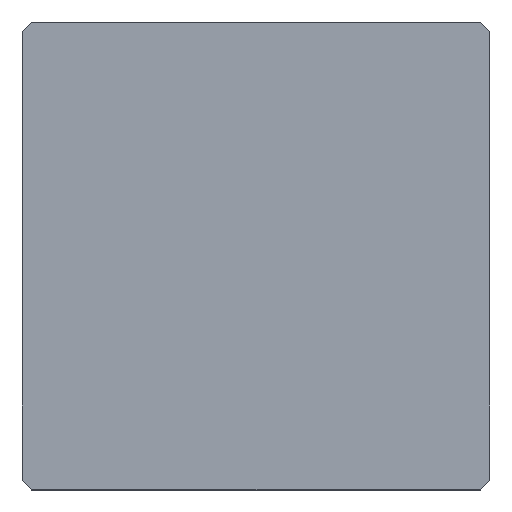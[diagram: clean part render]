
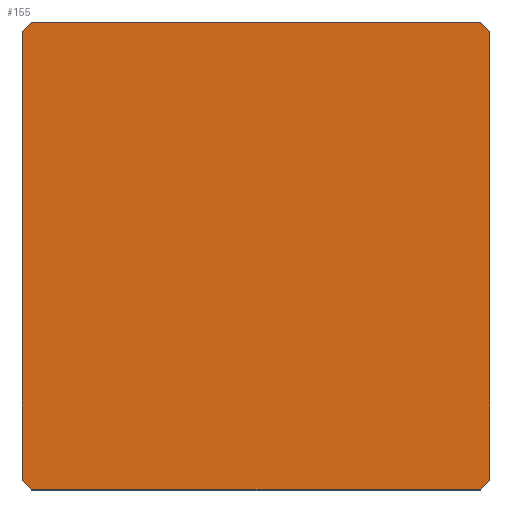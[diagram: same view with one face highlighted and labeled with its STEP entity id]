
A CAD part, top view. The second image highlights one B-rep face of the part: STEP entity #155.
In plain terms, the highlighted planar face has unit normal (0, 0, 1).
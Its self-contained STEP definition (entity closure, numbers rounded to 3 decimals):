
#39 = EDGE_CURVE('',#40,#42,#44,.T.);
#40 = VERTEX_POINT('',#41);
#41 = CARTESIAN_POINT('',(-10.,-9.6,12.75));
#42 = VERTEX_POINT('',#43);
#43 = CARTESIAN_POINT('',(-10.,9.6,12.75));
#44 = SURFACE_CURVE('',#45,(#49,#61),.PCURVE_S1.);
#45 = LINE('',#46,#47);
#46 = CARTESIAN_POINT('',(-10.,-10.,12.75));
#47 = VECTOR('',#48,1.);
#48 = DIRECTION('',(-0.,1.,0.));
#49 = PCURVE('',#50,#55);
#50 = PLANE('',#51);
#51 = AXIS2_PLACEMENT_3D('',#52,#53,#54);
#52 = CARTESIAN_POINT('',(-10.,-10.,0.));
#53 = DIRECTION('',(1.,0.,-0.));
#54 = DIRECTION('',(0.,0.,1.));
#55 = DEFINITIONAL_REPRESENTATION('',(#56),#60);
#56 = LINE('',#57,#58);
#57 = CARTESIAN_POINT('',(12.75,0.));
#58 = VECTOR('',#59,1.);
#59 = DIRECTION('',(0.,-1.));
#60 = ( GEOMETRIC_REPRESENTATION_CONTEXT(2) 
PARAMETRIC_REPRESENTATION_CONTEXT() REPRESENTATION_CONTEXT('2D SPACE',''
  ) );
#61 = PCURVE('',#62,#67);
#62 = PLANE('',#63);
#63 = AXIS2_PLACEMENT_3D('',#64,#65,#66);
#64 = CARTESIAN_POINT('',(-10.,-10.,12.75));
#65 = DIRECTION('',(0.,0.,1.));
#66 = DIRECTION('',(1.,0.,-0.));
#67 = DEFINITIONAL_REPRESENTATION('',(#68),#72);
#68 = LINE('',#69,#70);
#69 = CARTESIAN_POINT('',(0.,0.));
#70 = VECTOR('',#71,1.);
#71 = DIRECTION('',(0.,1.));
#72 = ( GEOMETRIC_REPRESENTATION_CONTEXT(2) 
PARAMETRIC_REPRESENTATION_CONTEXT() REPRESENTATION_CONTEXT('2D SPACE',''
  ) );
#90 = PLANE('',#91);
#91 = AXIS2_PLACEMENT_3D('',#92,#93,#94);
#92 = CARTESIAN_POINT('',(-9.8,-9.8,0.));
#93 = DIRECTION('',(-0.707,-0.707,0.));
#94 = DIRECTION('',(-0.,-0.,-1.));
#144 = PLANE('',#145);
#145 = AXIS2_PLACEMENT_3D('',#146,#147,#148);
#146 = CARTESIAN_POINT('',(-9.8,9.8,0.));
#147 = DIRECTION('',(0.707,-0.707,0.));
#148 = DIRECTION('',(-0.,-0.,-1.));
#155 = ADVANCED_FACE('',(#156),#62,.T.);
#156 = FACE_BOUND('',#157,.T.);
#157 = EDGE_LOOP('',(#158,#159,#182,#210,#238,#266,#294,#322));
#158 = ORIENTED_EDGE('',*,*,#39,.F.);
#159 = ORIENTED_EDGE('',*,*,#160,.T.);
#160 = EDGE_CURVE('',#40,#161,#163,.T.);
#161 = VERTEX_POINT('',#162);
#162 = CARTESIAN_POINT('',(-9.6,-10.,12.75));
#163 = SURFACE_CURVE('',#164,(#168,#175),.PCURVE_S1.);
#164 = LINE('',#165,#166);
#165 = CARTESIAN_POINT('',(-9.8,-9.8,12.75));
#166 = VECTOR('',#167,1.);
#167 = DIRECTION('',(0.707,-0.707,0.));
#168 = PCURVE('',#62,#169);
#169 = DEFINITIONAL_REPRESENTATION('',(#170),#174);
#170 = LINE('',#171,#172);
#171 = CARTESIAN_POINT('',(0.2,0.2));
#172 = VECTOR('',#173,1.);
#173 = DIRECTION('',(0.707,-0.707));
#174 = ( GEOMETRIC_REPRESENTATION_CONTEXT(2) 
PARAMETRIC_REPRESENTATION_CONTEXT() REPRESENTATION_CONTEXT('2D SPACE',''
  ) );
#175 = PCURVE('',#90,#176);
#176 = DEFINITIONAL_REPRESENTATION('',(#177),#181);
#177 = LINE('',#178,#179);
#178 = CARTESIAN_POINT('',(-12.75,0.));
#179 = VECTOR('',#180,1.);
#180 = DIRECTION('',(-0.,1.));
#181 = ( GEOMETRIC_REPRESENTATION_CONTEXT(2) 
PARAMETRIC_REPRESENTATION_CONTEXT() REPRESENTATION_CONTEXT('2D SPACE',''
  ) );
#182 = ORIENTED_EDGE('',*,*,#183,.T.);
#183 = EDGE_CURVE('',#161,#184,#186,.T.);
#184 = VERTEX_POINT('',#185);
#185 = CARTESIAN_POINT('',(9.6,-10.,12.75));
#186 = SURFACE_CURVE('',#187,(#191,#198),.PCURVE_S1.);
#187 = LINE('',#188,#189);
#188 = CARTESIAN_POINT('',(-10.,-10.,12.75));
#189 = VECTOR('',#190,1.);
#190 = DIRECTION('',(1.,0.,-0.));
#191 = PCURVE('',#62,#192);
#192 = DEFINITIONAL_REPRESENTATION('',(#193),#197);
#193 = LINE('',#194,#195);
#194 = CARTESIAN_POINT('',(0.,0.));
#195 = VECTOR('',#196,1.);
#196 = DIRECTION('',(1.,0.));
#197 = ( GEOMETRIC_REPRESENTATION_CONTEXT(2) 
PARAMETRIC_REPRESENTATION_CONTEXT() REPRESENTATION_CONTEXT('2D SPACE',''
  ) );
#198 = PCURVE('',#199,#204);
#199 = PLANE('',#200);
#200 = AXIS2_PLACEMENT_3D('',#201,#202,#203);
#201 = CARTESIAN_POINT('',(-10.,-10.,0.));
#202 = DIRECTION('',(-0.,1.,0.));
#203 = DIRECTION('',(0.,0.,1.));
#204 = DEFINITIONAL_REPRESENTATION('',(#205),#209);
#205 = LINE('',#206,#207);
#206 = CARTESIAN_POINT('',(12.75,0.));
#207 = VECTOR('',#208,1.);
#208 = DIRECTION('',(0.,1.));
#209 = ( GEOMETRIC_REPRESENTATION_CONTEXT(2) 
PARAMETRIC_REPRESENTATION_CONTEXT() REPRESENTATION_CONTEXT('2D SPACE',''
  ) );
#210 = ORIENTED_EDGE('',*,*,#211,.F.);
#211 = EDGE_CURVE('',#212,#184,#214,.T.);
#212 = VERTEX_POINT('',#213);
#213 = CARTESIAN_POINT('',(10.,-9.6,12.75));
#214 = SURFACE_CURVE('',#215,(#219,#226),.PCURVE_S1.);
#215 = LINE('',#216,#217);
#216 = CARTESIAN_POINT('',(4.8,-14.8,12.75));
#217 = VECTOR('',#218,1.);
#218 = DIRECTION('',(-0.707,-0.707,0.));
#219 = PCURVE('',#62,#220);
#220 = DEFINITIONAL_REPRESENTATION('',(#221),#225);
#221 = LINE('',#222,#223);
#222 = CARTESIAN_POINT('',(14.8,-4.8));
#223 = VECTOR('',#224,1.);
#224 = DIRECTION('',(-0.707,-0.707));
#225 = ( GEOMETRIC_REPRESENTATION_CONTEXT(2) 
PARAMETRIC_REPRESENTATION_CONTEXT() REPRESENTATION_CONTEXT('2D SPACE',''
  ) );
#226 = PCURVE('',#227,#232);
#227 = PLANE('',#228);
#228 = AXIS2_PLACEMENT_3D('',#229,#230,#231);
#229 = CARTESIAN_POINT('',(9.8,-9.8,0.));
#230 = DIRECTION('',(-0.707,0.707,0.));
#231 = DIRECTION('',(-0.,-0.,-1.));
#232 = DEFINITIONAL_REPRESENTATION('',(#233),#237);
#233 = LINE('',#234,#235);
#234 = CARTESIAN_POINT('',(-12.75,7.071));
#235 = VECTOR('',#236,1.);
#236 = DIRECTION('',(-0.,1.));
#237 = ( GEOMETRIC_REPRESENTATION_CONTEXT(2) 
PARAMETRIC_REPRESENTATION_CONTEXT() REPRESENTATION_CONTEXT('2D SPACE',''
  ) );
#238 = ORIENTED_EDGE('',*,*,#239,.T.);
#239 = EDGE_CURVE('',#212,#240,#242,.T.);
#240 = VERTEX_POINT('',#241);
#241 = CARTESIAN_POINT('',(10.,9.6,12.75));
#242 = SURFACE_CURVE('',#243,(#247,#254),.PCURVE_S1.);
#243 = LINE('',#244,#245);
#244 = CARTESIAN_POINT('',(10.,-10.,12.75));
#245 = VECTOR('',#246,1.);
#246 = DIRECTION('',(-0.,1.,0.));
#247 = PCURVE('',#62,#248);
#248 = DEFINITIONAL_REPRESENTATION('',(#249),#253);
#249 = LINE('',#250,#251);
#250 = CARTESIAN_POINT('',(20.,0.));
#251 = VECTOR('',#252,1.);
#252 = DIRECTION('',(0.,1.));
#253 = ( GEOMETRIC_REPRESENTATION_CONTEXT(2) 
PARAMETRIC_REPRESENTATION_CONTEXT() REPRESENTATION_CONTEXT('2D SPACE',''
  ) );
#254 = PCURVE('',#255,#260);
#255 = PLANE('',#256);
#256 = AXIS2_PLACEMENT_3D('',#257,#258,#259);
#257 = CARTESIAN_POINT('',(10.,-10.,0.));
#258 = DIRECTION('',(1.,0.,-0.));
#259 = DIRECTION('',(0.,0.,1.));
#260 = DEFINITIONAL_REPRESENTATION('',(#261),#265);
#261 = LINE('',#262,#263);
#262 = CARTESIAN_POINT('',(12.75,0.));
#263 = VECTOR('',#264,1.);
#264 = DIRECTION('',(0.,-1.));
#265 = ( GEOMETRIC_REPRESENTATION_CONTEXT(2) 
PARAMETRIC_REPRESENTATION_CONTEXT() REPRESENTATION_CONTEXT('2D SPACE',''
  ) );
#266 = ORIENTED_EDGE('',*,*,#267,.T.);
#267 = EDGE_CURVE('',#240,#268,#270,.T.);
#268 = VERTEX_POINT('',#269);
#269 = CARTESIAN_POINT('',(9.6,10.,12.75));
#270 = SURFACE_CURVE('',#271,(#275,#282),.PCURVE_S1.);
#271 = LINE('',#272,#273);
#272 = CARTESIAN_POINT('',(9.8,9.8,12.75));
#273 = VECTOR('',#274,1.);
#274 = DIRECTION('',(-0.707,0.707,0.));
#275 = PCURVE('',#62,#276);
#276 = DEFINITIONAL_REPRESENTATION('',(#277),#281);
#277 = LINE('',#278,#279);
#278 = CARTESIAN_POINT('',(19.8,19.8));
#279 = VECTOR('',#280,1.);
#280 = DIRECTION('',(-0.707,0.707));
#281 = ( GEOMETRIC_REPRESENTATION_CONTEXT(2) 
PARAMETRIC_REPRESENTATION_CONTEXT() REPRESENTATION_CONTEXT('2D SPACE',''
  ) );
#282 = PCURVE('',#283,#288);
#283 = PLANE('',#284);
#284 = AXIS2_PLACEMENT_3D('',#285,#286,#287);
#285 = CARTESIAN_POINT('',(9.8,9.8,0.));
#286 = DIRECTION('',(0.707,0.707,0.));
#287 = DIRECTION('',(-0.,0.,-1.));
#288 = DEFINITIONAL_REPRESENTATION('',(#289),#293);
#289 = LINE('',#290,#291);
#290 = CARTESIAN_POINT('',(-12.75,0.));
#291 = VECTOR('',#292,1.);
#292 = DIRECTION('',(-0.,1.));
#293 = ( GEOMETRIC_REPRESENTATION_CONTEXT(2) 
PARAMETRIC_REPRESENTATION_CONTEXT() REPRESENTATION_CONTEXT('2D SPACE',''
  ) );
#294 = ORIENTED_EDGE('',*,*,#295,.F.);
#295 = EDGE_CURVE('',#296,#268,#298,.T.);
#296 = VERTEX_POINT('',#297);
#297 = CARTESIAN_POINT('',(-9.6,10.,12.75));
#298 = SURFACE_CURVE('',#299,(#303,#310),.PCURVE_S1.);
#299 = LINE('',#300,#301);
#300 = CARTESIAN_POINT('',(-10.,10.,12.75));
#301 = VECTOR('',#302,1.);
#302 = DIRECTION('',(1.,0.,-0.));
#303 = PCURVE('',#62,#304);
#304 = DEFINITIONAL_REPRESENTATION('',(#305),#309);
#305 = LINE('',#306,#307);
#306 = CARTESIAN_POINT('',(0.,20.));
#307 = VECTOR('',#308,1.);
#308 = DIRECTION('',(1.,0.));
#309 = ( GEOMETRIC_REPRESENTATION_CONTEXT(2) 
PARAMETRIC_REPRESENTATION_CONTEXT() REPRESENTATION_CONTEXT('2D SPACE',''
  ) );
#310 = PCURVE('',#311,#316);
#311 = PLANE('',#312);
#312 = AXIS2_PLACEMENT_3D('',#313,#314,#315);
#313 = CARTESIAN_POINT('',(-10.,10.,0.));
#314 = DIRECTION('',(-0.,1.,0.));
#315 = DIRECTION('',(0.,0.,1.));
#316 = DEFINITIONAL_REPRESENTATION('',(#317),#321);
#317 = LINE('',#318,#319);
#318 = CARTESIAN_POINT('',(12.75,0.));
#319 = VECTOR('',#320,1.);
#320 = DIRECTION('',(0.,1.));
#321 = ( GEOMETRIC_REPRESENTATION_CONTEXT(2) 
PARAMETRIC_REPRESENTATION_CONTEXT() REPRESENTATION_CONTEXT('2D SPACE',''
  ) );
#322 = ORIENTED_EDGE('',*,*,#323,.F.);
#323 = EDGE_CURVE('',#42,#296,#324,.T.);
#324 = SURFACE_CURVE('',#325,(#329,#336),.PCURVE_S1.);
#325 = LINE('',#326,#327);
#326 = CARTESIAN_POINT('',(-14.8,4.8,12.75));
#327 = VECTOR('',#328,1.);
#328 = DIRECTION('',(0.707,0.707,-0.));
#329 = PCURVE('',#62,#330);
#330 = DEFINITIONAL_REPRESENTATION('',(#331),#335);
#331 = LINE('',#332,#333);
#332 = CARTESIAN_POINT('',(-4.8,14.8));
#333 = VECTOR('',#334,1.);
#334 = DIRECTION('',(0.707,0.707));
#335 = ( GEOMETRIC_REPRESENTATION_CONTEXT(2) 
PARAMETRIC_REPRESENTATION_CONTEXT() REPRESENTATION_CONTEXT('2D SPACE',''
  ) );
#336 = PCURVE('',#144,#337);
#337 = DEFINITIONAL_REPRESENTATION('',(#338),#342);
#338 = LINE('',#339,#340);
#339 = CARTESIAN_POINT('',(-12.75,-7.071));
#340 = VECTOR('',#341,1.);
#341 = DIRECTION('',(-0.,1.));
#342 = ( GEOMETRIC_REPRESENTATION_CONTEXT(2) 
PARAMETRIC_REPRESENTATION_CONTEXT() REPRESENTATION_CONTEXT('2D SPACE',''
  ) );
